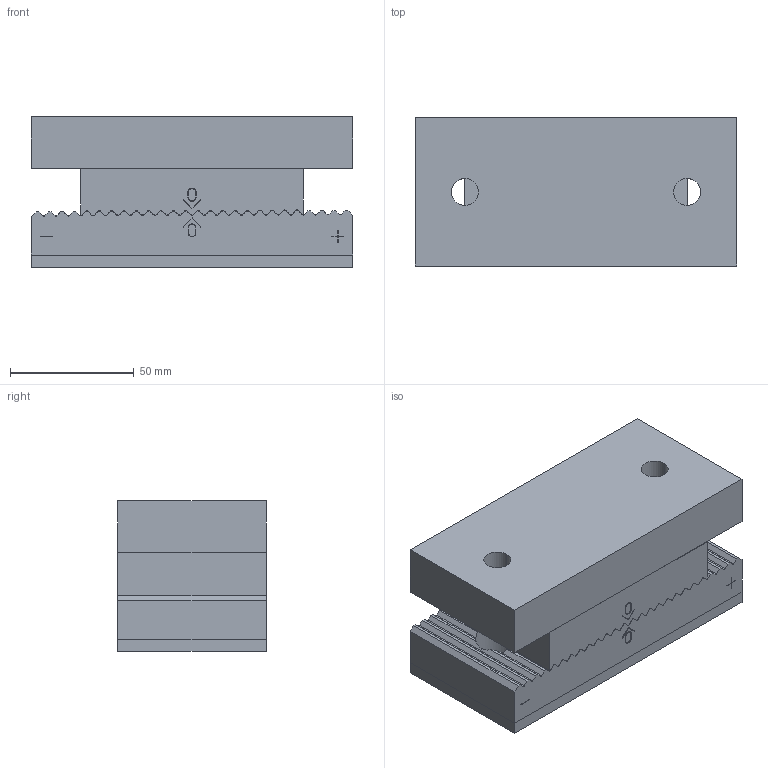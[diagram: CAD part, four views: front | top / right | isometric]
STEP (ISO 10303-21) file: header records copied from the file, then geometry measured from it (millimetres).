
FILE_DESCRIPTION (( 'STEP AP214' ), '1' );
FILE_NAME ('E5310_60x130.STEP', '2018-07-23T14:03:29', ( '' ), ( '' ), 'SwSTEP 2.0', 'SolidWorks 2017', '' );
FILE_SCHEMA (( 'AUTOMOTIVE_DESIGN' ));
Length unit declared in the file: millimetre
Products named in the file (6): E5310_1_60x130; E5310_60x130; E5310_4_60x130; E5310_3_60x130; E5310_2_60x130; E1200_10x20
Assembly tree (5 placements, depth 2):
  E5310_60x130
    E5310_1_60x130
    E1200_10x20
    E5310_2_60x130
    E5310_3_60x130
    E5310_4_60x130
Bounding box: 130 x 60 x 61 mm (x, y, z)
Volume: 398162.2 mm3; surface area: 88992.1 mm2
Topology: 5 solids, 5 shells, 446 faces, 1261 edges, 835 vertices
Faces by surface type: plane 294, cylinder 144, bspline 4, cone 4
Entity records: 16312 total; most frequent: CARTESIAN_POINT 4868, ORIENTED_EDGE 2518, DIRECTION 2059, EDGE_CURVE 1259, VERTEX_POINT 835, LINE 777, VECTOR 777, AXIS2_PLACEMENT_3D 641
